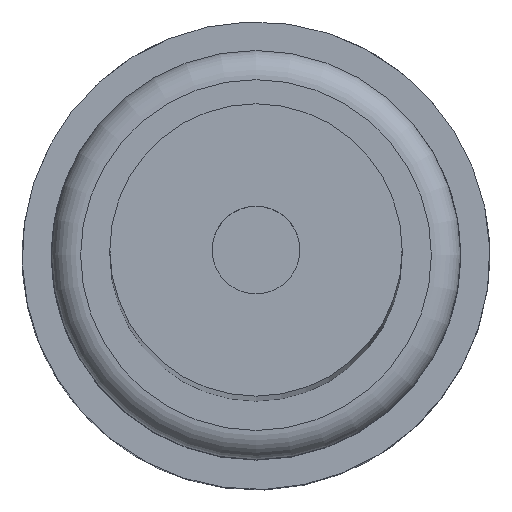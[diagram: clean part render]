
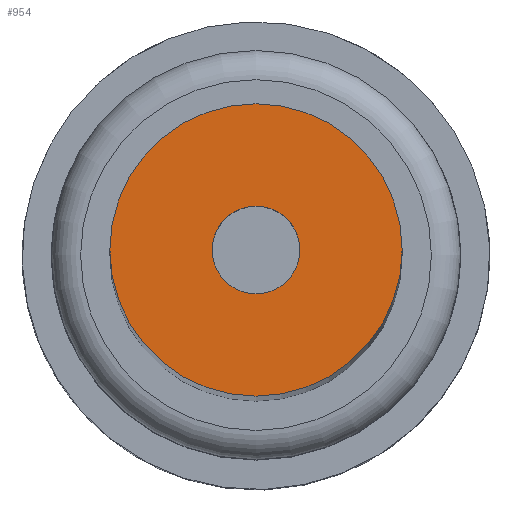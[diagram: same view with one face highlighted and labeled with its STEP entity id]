
A CAD part, top view. The second image highlights one B-rep face of the part: STEP entity #954.
In plain terms, the highlighted planar face has unit normal (0, 0, 1) as drawn and (-1, 0, 0) by its records, which use the part's own axes.
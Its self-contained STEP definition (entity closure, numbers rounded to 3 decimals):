
#50=PLANE('',#1110);
#84=FACE_BOUND('',#333,.T.);
#271=FACE_OUTER_BOUND('',#332,.T.);
#332=EDGE_LOOP('',(#702));
#333=EDGE_LOOP('',(#703));
#393=CIRCLE('',#1109,1.5);
#394=CIRCLE('',#1111,5.);
#443=VERTEX_POINT('',#1544);
#444=VERTEX_POINT('',#1548);
#542=EDGE_CURVE('',#443,#443,#393,.T.);
#543=EDGE_CURVE('',#444,#444,#394,.T.);
#702=ORIENTED_EDGE('',*,*,#543,.F.);
#703=ORIENTED_EDGE('',*,*,#542,.T.);
#954=ADVANCED_FACE('',(#271,#84),#50,.T.);
#1109=AXIS2_PLACEMENT_3D('',#1546,#1257,#1258);
#1110=AXIS2_PLACEMENT_3D('',#1547,#1259,#1260);
#1111=AXIS2_PLACEMENT_3D('',#1549,#1261,#1262);
#1257=DIRECTION('center_axis',(1.,0.,0.));
#1258=DIRECTION('ref_axis',(0.,0.,-1.));
#1259=DIRECTION('center_axis',(-1.,0.,0.));
#1260=DIRECTION('ref_axis',(0.,0.,1.));
#1261=DIRECTION('center_axis',(1.,0.,0.));
#1262=DIRECTION('ref_axis',(0.,0.,-1.));
#1544=CARTESIAN_POINT('',(-61.,1.5,0.));
#1546=CARTESIAN_POINT('Origin',(-61.,0.,0.));
#1547=CARTESIAN_POINT('Origin',(-61.,-5.,0.));
#1548=CARTESIAN_POINT('',(-61.,5.,0.));
#1549=CARTESIAN_POINT('Origin',(-61.,0.,0.));
